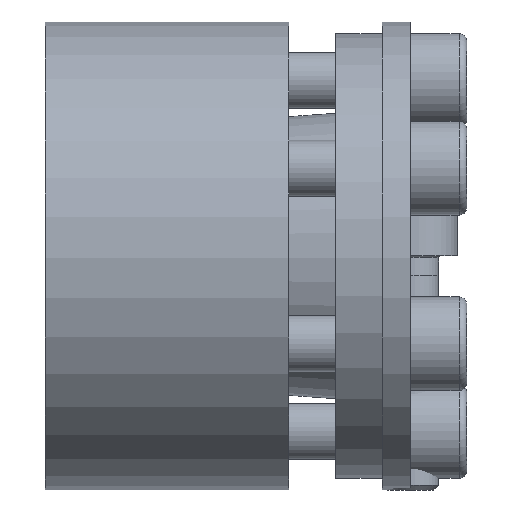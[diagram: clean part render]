
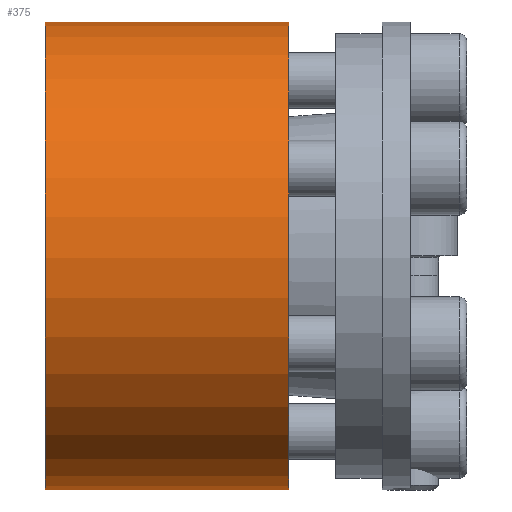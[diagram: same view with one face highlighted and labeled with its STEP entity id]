
A CAD part, left-side view. The second image highlights one B-rep face of the part: STEP entity #375.
In plain terms, the highlighted cylindrical face has radius 25 mm (diameter 50 mm), a partial arc.
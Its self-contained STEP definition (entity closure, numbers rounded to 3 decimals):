
#375 = ADVANCED_FACE( '', ( #599 ), #600, .T. );
#599 = FACE_OUTER_BOUND( '', #747, .T. );
#600 = CYLINDRICAL_SURFACE( '', #748, 25. );
#747 = EDGE_LOOP( '', ( #977, #978, #979, #980 ) );
#748 = AXIS2_PLACEMENT_3D( '', #981, #982, #983 );
#977 = ORIENTED_EDGE( '', *, *, #1254, .F. );
#978 = ORIENTED_EDGE( '', *, *, #1261, .T. );
#979 = ORIENTED_EDGE( '', *, *, #1266, .T. );
#980 = ORIENTED_EDGE( '', *, *, #1234, .T. );
#981 = CARTESIAN_POINT( '', ( 0., -60., 0. ) );
#982 = DIRECTION( '', ( 0., 1., 0. ) );
#983 = DIRECTION( '', ( 0., 0., -1. ) );
#1234 = EDGE_CURVE( '', #1371, #1369, #1372, .T. );
#1254 = EDGE_CURVE( '', #1406, #1369, #1408, .T. );
#1261 = EDGE_CURVE( '', #1406, #1419, #1421, .F. );
#1266 = EDGE_CURVE( '', #1419, #1371, #1429, .T. );
#1369 = VERTEX_POINT( '', #1491 );
#1371 = VERTEX_POINT( '', #1494 );
#1372 = LINE( '', #1495, #1496 );
#1406 = VERTEX_POINT( '', #1536 );
#1408 = CIRCLE( '', #1539, 25. );
#1419 = VERTEX_POINT( '', #1554 );
#1421 = LINE( '', #1557, #1558 );
#1429 = CIRCLE( '', #1569, 25. );
#1491 = CARTESIAN_POINT( '', ( 12.931, 13., 21.396 ) );
#1494 = CARTESIAN_POINT( '', ( 12.931, 39., 21.396 ) );
#1495 = CARTESIAN_POINT( '', ( 12.931, -60., 21.396 ) );
#1496 = VECTOR( '', #1611, 1000. );
#1536 = CARTESIAN_POINT( '', ( 12.064, 13., 21.896 ) );
#1539 = AXIS2_PLACEMENT_3D( '', #1658, #1659, #1660 );
#1554 = CARTESIAN_POINT( '', ( 12.064, 39., 21.896 ) );
#1557 = CARTESIAN_POINT( '', ( 12.064, -60., 21.896 ) );
#1558 = VECTOR( '', #1672, 1000. );
#1569 = AXIS2_PLACEMENT_3D( '', #1679, #1680, #1681 );
#1611 = DIRECTION( '', ( 0., -1., 0. ) );
#1658 = CARTESIAN_POINT( '', ( 0., 13., 0. ) );
#1659 = DIRECTION( '', ( 0., -1., 0. ) );
#1660 = DIRECTION( '', ( 0., 0., -1. ) );
#1672 = DIRECTION( '', ( 0., -1., 0. ) );
#1679 = CARTESIAN_POINT( '', ( 0., 39., 0. ) );
#1680 = DIRECTION( '', ( 0., -1., 0. ) );
#1681 = DIRECTION( '', ( 0., 0., -1. ) );
